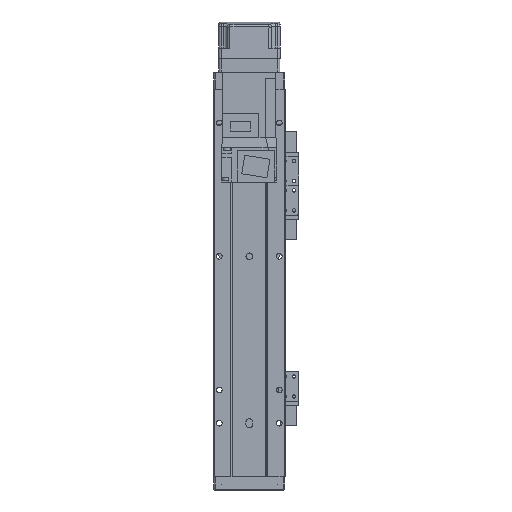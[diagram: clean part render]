
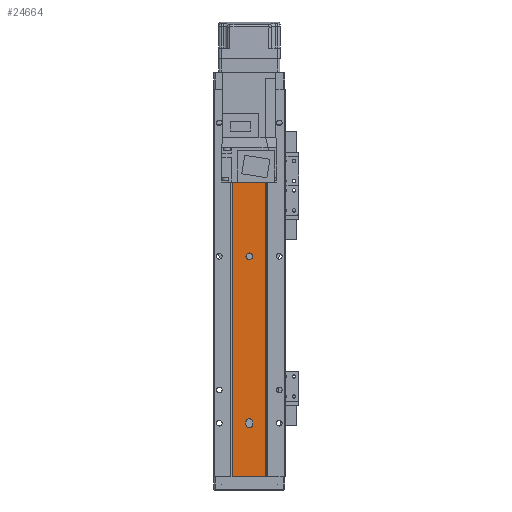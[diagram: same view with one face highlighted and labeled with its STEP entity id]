
A CAD part, front view. The second image highlights one B-rep face of the part: STEP entity #24664.
In plain terms, the highlighted planar face has unit normal (0, -1, 0).
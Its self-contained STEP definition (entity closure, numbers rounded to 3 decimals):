
#857 = EDGE_LOOP ( 'NONE', ( #28425, #31611 ) ) ;
#915 = LINE ( 'NONE', #23328, #17796 ) ;
#1162 = EDGE_LOOP ( 'NONE', ( #13717, #23593, #7806, #10515 ) ) ;
#1268 = EDGE_CURVE ( 'NONE', #22353, #20130, #36782, .T. ) ;
#1686 = DIRECTION ( 'NONE',  ( 0., -1., 0. ) ) ;
#3046 = CARTESIAN_POINT ( 'NONE',  ( -2.5, 1.5, -25. ) ) ;
#3368 = ORIENTED_EDGE ( 'NONE', *, *, #21575, .T. ) ;
#3711 = VERTEX_POINT ( 'NONE', #10982 ) ;
#4062 = CARTESIAN_POINT ( 'NONE',  ( -2.5, 1.5, -249. ) ) ;
#4504 = DIRECTION ( 'NONE',  ( 1., 0., 0. ) ) ;
#5086 = ORIENTED_EDGE ( 'NONE', *, *, #28370, .F. ) ;
#5262 = VECTOR ( 'NONE', #35033, 1000. ) ;
#5453 = EDGE_CURVE ( 'NONE', #23351, #27979, #30331, .T. ) ;
#5634 = CARTESIAN_POINT ( 'NONE',  ( 0., 1.5, -251. ) ) ;
#6655 = CARTESIAN_POINT ( 'NONE',  ( -2.5, 1.5, -251. ) ) ;
#6897 = EDGE_CURVE ( 'NONE', #3711, #23808, #26964, .T. ) ;
#7033 = AXIS2_PLACEMENT_3D ( 'NONE', #13306, #21518, #21772 ) ;
#7596 = AXIS2_PLACEMENT_3D ( 'NONE', #15624, #25302, #21695 ) ;
#7654 = DIRECTION ( 'NONE',  ( 0., 0., 1. ) ) ;
#7789 = CARTESIAN_POINT ( 'NONE',  ( -12.293, 1.5, 0. ) ) ;
#7806 = ORIENTED_EDGE ( 'NONE', *, *, #12378, .F. ) ;
#7880 = CIRCLE ( 'NONE', #7033, 2.5 ) ;
#8396 = VERTEX_POINT ( 'NONE', #4062 ) ;
#8848 = CARTESIAN_POINT ( 'NONE',  ( 12.293, 1.5, 0. ) ) ;
#9329 = DIRECTION ( 'NONE',  ( 0., 0., 1. ) ) ;
#9505 = CARTESIAN_POINT ( 'NONE',  ( -12.293, 1.5, -290. ) ) ;
#10290 = LINE ( 'NONE', #14854, #5262 ) ;
#10335 = DIRECTION ( 'NONE',  ( 0., -1., 0. ) ) ;
#10431 = CIRCLE ( 'NONE', #16835, 2.5 ) ;
#10515 = ORIENTED_EDGE ( 'NONE', *, *, #34074, .F. ) ;
#10526 = PLANE ( 'NONE',  #36580 ) ;
#10982 = CARTESIAN_POINT ( 'NONE',  ( 2.5, 1.5, -25. ) ) ;
#11826 = ORIENTED_EDGE ( 'NONE', *, *, #1268, .F. ) ;
#11838 = DIRECTION ( 'NONE',  ( 1., 0., 0. ) ) ;
#12378 = EDGE_CURVE ( 'NONE', #32977, #8396, #7880, .T. ) ;
#13160 = CIRCLE ( 'NONE', #26634, 2.5 ) ;
#13306 = CARTESIAN_POINT ( 'NONE',  ( 0., 1.5, -249. ) ) ;
#13442 = CARTESIAN_POINT ( 'NONE',  ( 12.293, 1.5, 0. ) ) ;
#13717 = ORIENTED_EDGE ( 'NONE', *, *, #31087, .F. ) ;
#14672 = FACE_OUTER_BOUND ( 'NONE', #29551, .T. ) ;
#14854 = CARTESIAN_POINT ( 'NONE',  ( 12.293, 1.5, -290. ) ) ;
#15092 = ORIENTED_EDGE ( 'NONE', *, *, #19511, .T. ) ;
#15624 = CARTESIAN_POINT ( 'NONE',  ( 0., 1.5, -125. ) ) ;
#16835 = AXIS2_PLACEMENT_3D ( 'NONE', #5634, #34789, #17470 ) ;
#17356 = DIRECTION ( 'NONE',  ( 1., 0., 0. ) ) ;
#17374 = FACE_BOUND ( 'NONE', #1162, .T. ) ;
#17443 = DIRECTION ( 'NONE',  ( 1., 0., 0. ) ) ;
#17470 = DIRECTION ( 'NONE',  ( 1., 0., 0. ) ) ;
#17796 = VECTOR ( 'NONE', #17443, 1000. ) ;
#18846 = CARTESIAN_POINT ( 'NONE',  ( 2.5, 1.5, -249. ) ) ;
#19040 = CARTESIAN_POINT ( 'NONE',  ( 2.5, 1.5, -251. ) ) ;
#19447 = VECTOR ( 'NONE', #7654, 1000. ) ;
#19511 = EDGE_CURVE ( 'NONE', #30564, #32999, #10290, .T. ) ;
#20130 = VERTEX_POINT ( 'NONE', #7789 ) ;
#21446 = CARTESIAN_POINT ( 'NONE',  ( -2.5, 1.5, -125. ) ) ;
#21457 = FACE_BOUND ( 'NONE', #857, .T. ) ;
#21518 = DIRECTION ( 'NONE',  ( 0., -1., 0. ) ) ;
#21575 = EDGE_CURVE ( 'NONE', #22353, #30564, #915, .T. ) ;
#21639 = ORIENTED_EDGE ( 'NONE', *, *, #35945, .F. ) ;
#21695 = DIRECTION ( 'NONE',  ( 1., 0., 0. ) ) ;
#21772 = DIRECTION ( 'NONE',  ( 1., 0., 0. ) ) ;
#21825 = EDGE_LOOP ( 'NONE', ( #36995, #21639 ) ) ;
#21942 = CARTESIAN_POINT ( 'NONE',  ( 2.5, 1.5, -125. ) ) ;
#22231 = AXIS2_PLACEMENT_3D ( 'NONE', #23064, #25082, #37647 ) ;
#22353 = VERTEX_POINT ( 'NONE', #9505 ) ;
#22493 = CARTESIAN_POINT ( 'NONE',  ( 12.293, 1.5, -290. ) ) ;
#22690 = DIRECTION ( 'NONE',  ( 0., -1., 0. ) ) ;
#23064 = CARTESIAN_POINT ( 'NONE',  ( 0., 1.5, -125. ) ) ;
#23328 = CARTESIAN_POINT ( 'NONE',  ( 12.293, 1.5, -290. ) ) ;
#23351 = VERTEX_POINT ( 'NONE', #21942 ) ;
#23593 = ORIENTED_EDGE ( 'NONE', *, *, #33794, .F. ) ;
#23808 = VERTEX_POINT ( 'NONE', #3046 ) ;
#24093 = CARTESIAN_POINT ( 'NONE',  ( 2.5, 1.5, -290. ) ) ;
#24664 = ADVANCED_FACE ( 'NONE', ( #17374, #27370, #21457, #14672 ), #10526, .T. ) ;
#24706 = CARTESIAN_POINT ( 'NONE',  ( -12.293, 1.5, -290. ) ) ;
#24831 = CARTESIAN_POINT ( 'NONE',  ( 0., 1.5, -25. ) ) ;
#25082 = DIRECTION ( 'NONE',  ( 0., -1., 0. ) ) ;
#25302 = DIRECTION ( 'NONE',  ( 0., -1., 0. ) ) ;
#25661 = CARTESIAN_POINT ( 'NONE',  ( -2.5, 1.5, -290. ) ) ;
#26634 = AXIS2_PLACEMENT_3D ( 'NONE', #24831, #10335, #33767 ) ;
#26764 = EDGE_CURVE ( 'NONE', #23808, #3711, #13160, .T. ) ;
#26964 = CIRCLE ( 'NONE', #35930, 2.5 ) ;
#27067 = LINE ( 'NONE', #8848, #30250 ) ;
#27370 = FACE_BOUND ( 'NONE', #21825, .T. ) ;
#27979 = VERTEX_POINT ( 'NONE', #21446 ) ;
#28235 = LINE ( 'NONE', #24093, #29118 ) ;
#28336 = DIRECTION ( 'NONE',  ( 0., 0., -1. ) ) ;
#28370 = EDGE_CURVE ( 'NONE', #20130, #32999, #27067, .T. ) ;
#28425 = ORIENTED_EDGE ( 'NONE', *, *, #6897, .F. ) ;
#28474 = VERTEX_POINT ( 'NONE', #6655 ) ;
#29118 = VECTOR ( 'NONE', #9329, 1000. ) ;
#29181 = LINE ( 'NONE', #25661, #32405 ) ;
#29551 = EDGE_LOOP ( 'NONE', ( #5086, #11826, #3368, #15092 ) ) ;
#30250 = VECTOR ( 'NONE', #17356, 1000. ) ;
#30331 = CIRCLE ( 'NONE', #22231, 2.5 ) ;
#30564 = VERTEX_POINT ( 'NONE', #33347 ) ;
#30689 = CIRCLE ( 'NONE', #7596, 2.5 ) ;
#31087 = EDGE_CURVE ( 'NONE', #28474, #31919, #10431, .T. ) ;
#31611 = ORIENTED_EDGE ( 'NONE', *, *, #26764, .F. ) ;
#31919 = VERTEX_POINT ( 'NONE', #19040 ) ;
#32405 = VECTOR ( 'NONE', #28336, 1000. ) ;
#32977 = VERTEX_POINT ( 'NONE', #18846 ) ;
#32999 = VERTEX_POINT ( 'NONE', #13442 ) ;
#33347 = CARTESIAN_POINT ( 'NONE',  ( 12.293, 1.5, -290. ) ) ;
#33767 = DIRECTION ( 'NONE',  ( 1., 0., 0. ) ) ;
#33794 = EDGE_CURVE ( 'NONE', #8396, #28474, #29181, .T. ) ;
#34074 = EDGE_CURVE ( 'NONE', #31919, #32977, #28235, .T. ) ;
#34789 = DIRECTION ( 'NONE',  ( 0., -1., 0. ) ) ;
#35033 = DIRECTION ( 'NONE',  ( 0., 0., 1. ) ) ;
#35930 = AXIS2_PLACEMENT_3D ( 'NONE', #37166, #22690, #11838 ) ;
#35945 = EDGE_CURVE ( 'NONE', #27979, #23351, #30689, .T. ) ;
#36580 = AXIS2_PLACEMENT_3D ( 'NONE', #22493, #1686, #4504 ) ;
#36782 = LINE ( 'NONE', #24706, #19447 ) ;
#36995 = ORIENTED_EDGE ( 'NONE', *, *, #5453, .F. ) ;
#37166 = CARTESIAN_POINT ( 'NONE',  ( 0., 1.5, -25. ) ) ;
#37647 = DIRECTION ( 'NONE',  ( 1., 0., 0. ) ) ;
